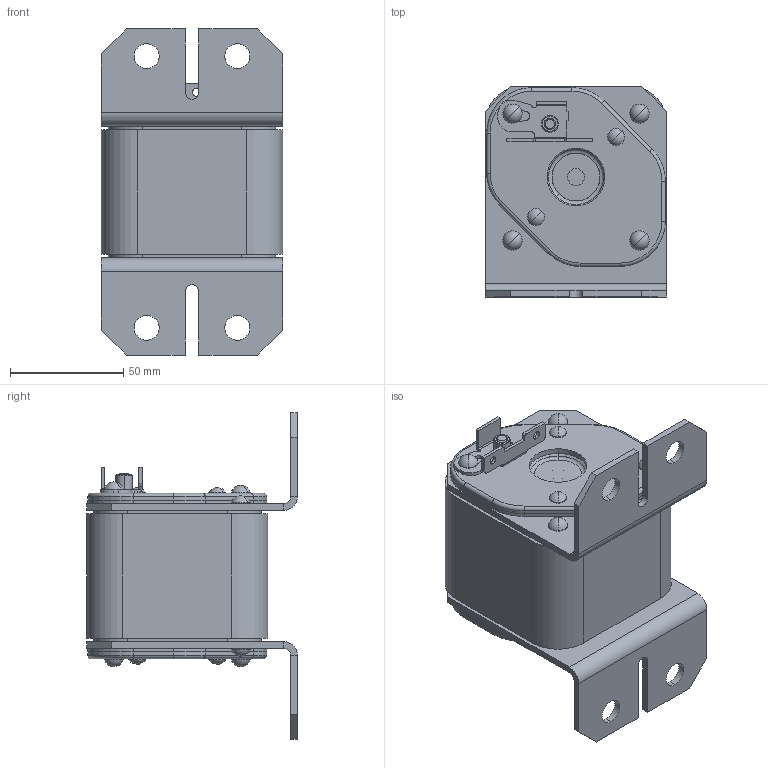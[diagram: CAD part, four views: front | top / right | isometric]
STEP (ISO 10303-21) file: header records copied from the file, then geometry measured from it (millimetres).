
FILE_DESCRIPTION (( 'STEP AP214' ), '1' );
FILE_NAME ('ﾏﾏ60ﾑ-41ﾒ1-XXXX-XXXX-ﾊﾝﾀﾇ.STEP', '2023-05-02T08:23:15', ( '' ), ( '' ), 'SwSTEP 2.0', 'SolidWorks 2018', '' );
FILE_SCHEMA (( 'AUTOMOTIVE_DESIGN' ));
Length unit declared in the file: millimetre
Products named in the file (1): ﾏﾏ60ﾑ-41ﾒ1-XXXX-XXXX-ﾊﾝﾀﾇ
Bounding box: 80 x 93 x 144 mm (x, y, z)
Volume: 445919.8 mm3; surface area: 149519.4 mm2
Topology: 26 solids, 26 shells, 606 faces, 1458 edges, 934 vertices
Faces by surface type: cylinder 290, plane 213, torus 60, sphere 24, cone 18, bspline 1
Entity records: 25095 total; most frequent: DIRECTION 3420, CARTESIAN_POINT 3074, ORIENTED_EDGE 2916, EDGE_CURVE 1458, AXIS2_PLACEMENT_3D 1362, VERTEX_POINT 934, EDGE_LOOP 768, CIRCLE 756
